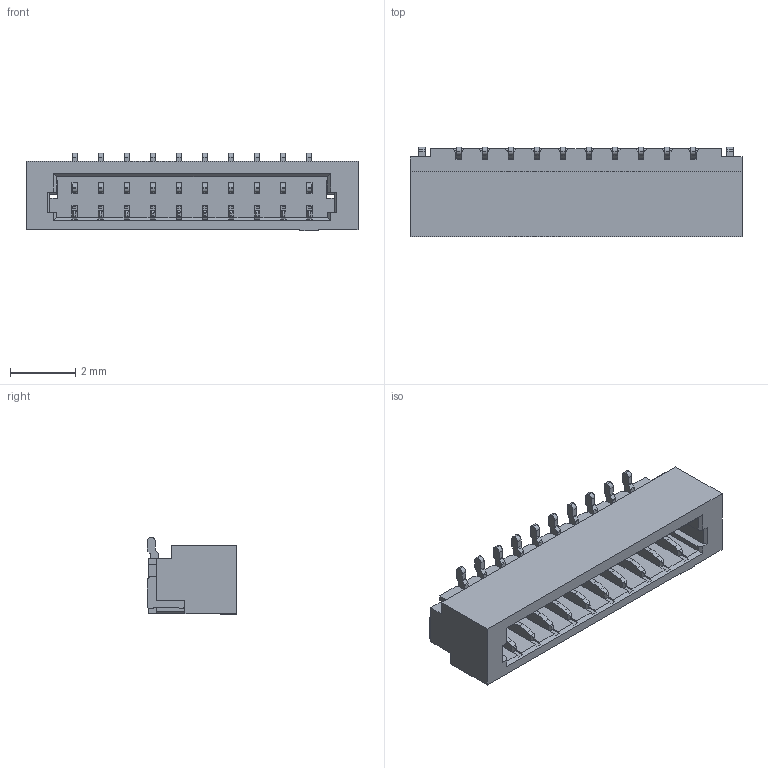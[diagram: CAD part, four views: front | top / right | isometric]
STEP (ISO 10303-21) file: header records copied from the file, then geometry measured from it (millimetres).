
FILE_DESCRIPTION((''),'2;1');
FILE_NAME('SCT0800WVS-10','2023-04-10T16:40:33',('Administrator'),(''),'CREO PARAMETRIC BY PTC INC, 2018050','CREO PARAMETRIC BY PTC INC, 2018050','');
FILE_SCHEMA(('CONFIG_CONTROL_DESIGN'));
Length unit declared in the file: millimetre
Products named in the file (1): SCT0800WVS-10
Bounding box: 10.18 x 2.75 x 2.37 mm (x, y, z)
Volume: 35.5 mm3; surface area: 213.7 mm2
Topology: 1 solids, 2 shells, 815 faces, 2564 edges, 1696 vertices
Faces by surface type: plane 519, cylinder 296
Entity records: 28589 total; most frequent: CARTESIAN_POINT 5222, ORIENTED_EDGE 5128, DIRECTION 4702, EDGE_CURVE 2564, VECTOR 1968, LINE 1968, VERTEX_POINT 1696, AXIS2_PLACEMENT_3D 1367
